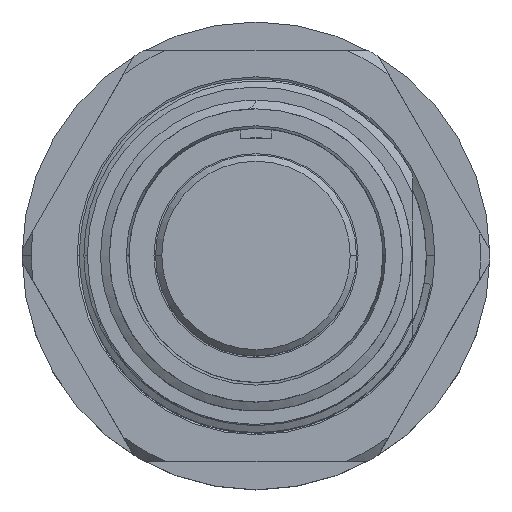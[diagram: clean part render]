
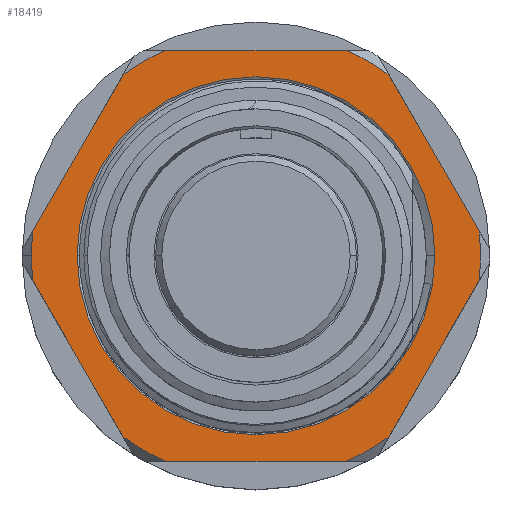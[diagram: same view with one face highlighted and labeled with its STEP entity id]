
A CAD part, top view. The second image highlights one B-rep face of the part: STEP entity #18419.
In plain terms, the highlighted planar face has unit normal (0, 0, 1).
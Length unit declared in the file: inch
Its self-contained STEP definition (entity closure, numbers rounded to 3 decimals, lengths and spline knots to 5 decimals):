
#40 = CARTESIAN_POINT ( 'NONE',  ( 0., 0., -0.59 ) ) ;
#198 = VECTOR ( 'NONE', #565, 39.37008 ) ;
#236 = CARTESIAN_POINT ( 'NONE',  ( -0.32043, 0.755, -0.59 ) ) ;
#300 = EDGE_CURVE ( 'NONE', #17003, #16417, #13078, .T. ) ;
#346 = VERTEX_POINT ( 'NONE', #20604 ) ;
#439 = ORIENTED_EDGE ( 'NONE', *, *, #11275, .T. ) ;
#451 = ORIENTED_EDGE ( 'NONE', *, *, #15146, .F. ) ;
#485 = VERTEX_POINT ( 'NONE', #16913 ) ;
#565 = DIRECTION ( 'NONE',  ( 1., 0., 0. ) ) ;
#849 = LINE ( 'NONE', #15213, #17257 ) ;
#852 = ORIENTED_EDGE ( 'NONE', *, *, #12376, .T. ) ;
#1021 = DIRECTION ( 'NONE',  ( 0., 0., 1. ) ) ;
#1150 = DIRECTION ( 'NONE',  ( -0.5, -0.866, 0. ) ) ;
#1242 = VERTEX_POINT ( 'NONE', #11597 ) ;
#1440 = DIRECTION ( 'NONE',  ( 0., 0., 1. ) ) ;
#1490 = EDGE_LOOP ( 'NONE', ( #14899, #439, #7369, #15559, #13210, #4406, #14832, #17881, #852, #20594, #5254, #7437, #8036 ) ) ;
#1937 = CARTESIAN_POINT ( 'NONE',  ( 0.32043, 0.755, -0.59 ) ) ;
#2206 = DIRECTION ( 'NONE',  ( 1., 0., 0. ) ) ;
#2260 = DIRECTION ( 'NONE',  ( 1., 0., 0. ) ) ;
#2390 = CARTESIAN_POINT ( 'NONE',  ( 0.28671, 0.655, -0.59 ) ) ;
#2472 = CARTESIAN_POINT ( 'NONE',  ( -0.715, 0., -0.59 ) ) ;
#2854 = CIRCLE ( 'NONE', #11173, 0.715 ) ;
#3367 = EDGE_CURVE ( 'NONE', #5416, #6409, #4305, .T. ) ;
#3648 = CARTESIAN_POINT ( 'NONE',  ( -0.42389, -0.57579, -0.59 ) ) ;
#4188 = AXIS2_PLACEMENT_3D ( 'NONE', #11793, #15014, #2206 ) ;
#4305 = LINE ( 'NONE', #5034, #12440 ) ;
#4406 = ORIENTED_EDGE ( 'NONE', *, *, #300, .T. ) ;
#4784 = CARTESIAN_POINT ( 'NONE',  ( 0., 0., -0.59 ) ) ;
#4814 = DIRECTION ( 'NONE',  ( 0., 0., 1. ) ) ;
#5034 = CARTESIAN_POINT ( 'NONE',  ( -0.81406, 0.1, -0.59 ) ) ;
#5254 = ORIENTED_EDGE ( 'NONE', *, *, #7687, .T. ) ;
#5272 = LINE ( 'NONE', #1937, #7244 ) ;
#5416 = VERTEX_POINT ( 'NONE', #3648 ) ;
#5488 = CARTESIAN_POINT ( 'NONE',  ( 0., 0., -0.59 ) ) ;
#5517 = VERTEX_POINT ( 'NONE', #10209 ) ;
#5725 = DIRECTION ( 'NONE',  ( 1., 0., 0. ) ) ;
#5737 = DIRECTION ( 'NONE',  ( 1., 0., 0. ) ) ;
#5874 = PLANE ( 'NONE',  #17040 ) ;
#5962 = CARTESIAN_POINT ( 'NONE',  ( 0.42389, 0.57579, -0.59 ) ) ;
#6003 = EDGE_CURVE ( 'NONE', #485, #5517, #18851, .T. ) ;
#6409 = VERTEX_POINT ( 'NONE', #16382 ) ;
#6589 = VERTEX_POINT ( 'NONE', #2390 ) ;
#6788 = CARTESIAN_POINT ( 'NONE',  ( 0.7106, 0.07921, -0.59 ) ) ;
#6930 = CIRCLE ( 'NONE', #17612, 0.715 ) ;
#6931 = EDGE_CURVE ( 'NONE', #17003, #6589, #16719, .T. ) ;
#6983 = AXIS2_PLACEMENT_3D ( 'NONE', #9304, #15676, #5725 ) ;
#7011 = VERTEX_POINT ( 'NONE', #7314 ) ;
#7126 = EDGE_CURVE ( 'NONE', #7011, #16075, #2854, .T. ) ;
#7183 = CIRCLE ( 'NONE', #4188, 0.715 ) ;
#7244 = VECTOR ( 'NONE', #13090, 39.37008 ) ;
#7260 = AXIS2_PLACEMENT_3D ( 'NONE', #4784, #1440, #11020 ) ;
#7314 = CARTESIAN_POINT ( 'NONE',  ( -0.7106, 0.07921, -0.59 ) ) ;
#7369 = ORIENTED_EDGE ( 'NONE', *, *, #11783, .F. ) ;
#7398 = CARTESIAN_POINT ( 'NONE',  ( 0., 0., -0.59 ) ) ;
#7437 = ORIENTED_EDGE ( 'NONE', *, *, #19694, .F. ) ;
#7687 = EDGE_CURVE ( 'NONE', #5416, #346, #7183, .T. ) ;
#7854 = DIRECTION ( 'NONE',  ( 0.5, 0.866, 0. ) ) ;
#8036 = ORIENTED_EDGE ( 'NONE', *, *, #10347, .T. ) ;
#8080 = VERTEX_POINT ( 'NONE', #5962 ) ;
#8266 = CIRCLE ( 'NONE', #7260, 0.715 ) ;
#8567 = EDGE_CURVE ( 'NONE', #7011, #16417, #14506, .T. ) ;
#8916 = AXIS2_PLACEMENT_3D ( 'NONE', #15578, #9208, #17148 ) ;
#9157 = EDGE_CURVE ( 'NONE', #9730, #1242, #849, .T. ) ;
#9182 = EDGE_CURVE ( 'NONE', #8080, #6589, #6930, .T. ) ;
#9208 = DIRECTION ( 'NONE',  ( 0., 0., 1. ) ) ;
#9304 = CARTESIAN_POINT ( 'NONE',  ( 0., 0., -0.59 ) ) ;
#9421 = FACE_OUTER_BOUND ( 'NONE', #1490, .T. ) ;
#9730 = VERTEX_POINT ( 'NONE', #14211 ) ;
#9883 = LINE ( 'NONE', #12913, #15051 ) ;
#10209 = CARTESIAN_POINT ( 'NONE',  ( 0.57, 0., -0.59 ) ) ;
#10281 = CIRCLE ( 'NONE', #15612, 0.715 ) ;
#10347 = EDGE_CURVE ( 'NONE', #15216, #1242, #8266, .T. ) ;
#10446 = DIRECTION ( 'NONE',  ( 0., 0., 1. ) ) ;
#11020 = DIRECTION ( 'NONE',  ( 1., 0., 0. ) ) ;
#11173 = AXIS2_PLACEMENT_3D ( 'NONE', #20057, #10446, #13669 ) ;
#11275 = EDGE_CURVE ( 'NONE', #9730, #12351, #10281, .T. ) ;
#11597 = CARTESIAN_POINT ( 'NONE',  ( 0.42389, -0.57579, -0.59 ) ) ;
#11783 = EDGE_CURVE ( 'NONE', #8080, #12351, #5272, .T. ) ;
#11793 = CARTESIAN_POINT ( 'NONE',  ( 0., 0., -0.59 ) ) ;
#12323 = CIRCLE ( 'NONE', #6983, 0.57 ) ;
#12351 = VERTEX_POINT ( 'NONE', #6788 ) ;
#12353 = FACE_BOUND ( 'NONE', #18955, .T. ) ;
#12376 = EDGE_CURVE ( 'NONE', #16075, #6409, #18605, .T. ) ;
#12440 = VECTOR ( 'NONE', #18489, 39.37008 ) ;
#12913 = CARTESIAN_POINT ( 'NONE',  ( 0., -0.655, -0.59 ) ) ;
#13078 = CIRCLE ( 'NONE', #16715, 0.715 ) ;
#13090 = DIRECTION ( 'NONE',  ( 0.5, -0.866, 0. ) ) ;
#13210 = ORIENTED_EDGE ( 'NONE', *, *, #6931, .F. ) ;
#13669 = DIRECTION ( 'NONE',  ( 1., 0., 0. ) ) ;
#13836 = CARTESIAN_POINT ( 'NONE',  ( 0., 0., -0.59 ) ) ;
#14092 = DIRECTION ( 'NONE',  ( 1., 0., 0. ) ) ;
#14211 = CARTESIAN_POINT ( 'NONE',  ( 0.7106, -0.07921, -0.59 ) ) ;
#14506 = LINE ( 'NONE', #236, #19876 ) ;
#14832 = ORIENTED_EDGE ( 'NONE', *, *, #8567, .F. ) ;
#14899 = ORIENTED_EDGE ( 'NONE', *, *, #9157, .F. ) ;
#15014 = DIRECTION ( 'NONE',  ( 0., 0., 1. ) ) ;
#15051 = VECTOR ( 'NONE', #19300, 39.37008 ) ;
#15146 = EDGE_CURVE ( 'NONE', #5517, #485, #12323, .T. ) ;
#15213 = CARTESIAN_POINT ( 'NONE',  ( 0.81406, 0.1, -0.59 ) ) ;
#15216 = VERTEX_POINT ( 'NONE', #19936 ) ;
#15509 = CARTESIAN_POINT ( 'NONE',  ( -0.28671, 0.655, -0.59 ) ) ;
#15559 = ORIENTED_EDGE ( 'NONE', *, *, #9182, .T. ) ;
#15578 = CARTESIAN_POINT ( 'NONE',  ( 0., 0., -0.59 ) ) ;
#15612 = AXIS2_PLACEMENT_3D ( 'NONE', #5488, #4814, #2260 ) ;
#15676 = DIRECTION ( 'NONE',  ( 0., 0., 1. ) ) ;
#15895 = DIRECTION ( 'NONE',  ( 0., 0., 1. ) ) ;
#16075 = VERTEX_POINT ( 'NONE', #2472 ) ;
#16382 = CARTESIAN_POINT ( 'NONE',  ( -0.7106, -0.07921, -0.59 ) ) ;
#16417 = VERTEX_POINT ( 'NONE', #19855 ) ;
#16715 = AXIS2_PLACEMENT_3D ( 'NONE', #40, #15895, #14092 ) ;
#16719 = LINE ( 'NONE', #17984, #198 ) ;
#16913 = CARTESIAN_POINT ( 'NONE',  ( -0.57, 0., -0.59 ) ) ;
#17003 = VERTEX_POINT ( 'NONE', #15509 ) ;
#17040 = AXIS2_PLACEMENT_3D ( 'NONE', #18527, #17047, #20509 ) ;
#17047 = DIRECTION ( 'NONE',  ( 0., 0., -1. ) ) ;
#17148 = DIRECTION ( 'NONE',  ( 1., 0., 0. ) ) ;
#17257 = VECTOR ( 'NONE', #1150, 39.37008 ) ;
#17612 = AXIS2_PLACEMENT_3D ( 'NONE', #7398, #18388, #5737 ) ;
#17881 = ORIENTED_EDGE ( 'NONE', *, *, #7126, .T. ) ;
#17984 = CARTESIAN_POINT ( 'NONE',  ( 0., 0.655, -0.59 ) ) ;
#18289 = ORIENTED_EDGE ( 'NONE', *, *, #6003, .F. ) ;
#18388 = DIRECTION ( 'NONE',  ( 0., 0., 1. ) ) ;
#18419 = ADVANCED_FACE ( 'NONE', ( #12353, #9421 ), #5874, .F. ) ;
#18489 = DIRECTION ( 'NONE',  ( -0.5, 0.866, 0. ) ) ;
#18527 = CARTESIAN_POINT ( 'NONE',  ( 0., 0.57, -0.59 ) ) ;
#18605 = CIRCLE ( 'NONE', #8916, 0.715 ) ;
#18672 = DIRECTION ( 'NONE',  ( 1., 0., 0. ) ) ;
#18851 = CIRCLE ( 'NONE', #20516, 0.57 ) ;
#18955 = EDGE_LOOP ( 'NONE', ( #451, #18289 ) ) ;
#19300 = DIRECTION ( 'NONE',  ( -1., 0., 0. ) ) ;
#19694 = EDGE_CURVE ( 'NONE', #15216, #346, #9883, .T. ) ;
#19855 = CARTESIAN_POINT ( 'NONE',  ( -0.42389, 0.57579, -0.59 ) ) ;
#19876 = VECTOR ( 'NONE', #7854, 39.37008 ) ;
#19936 = CARTESIAN_POINT ( 'NONE',  ( 0.28671, -0.655, -0.59 ) ) ;
#20057 = CARTESIAN_POINT ( 'NONE',  ( 0., 0., -0.59 ) ) ;
#20509 = DIRECTION ( 'NONE',  ( -1., 0., 0. ) ) ;
#20516 = AXIS2_PLACEMENT_3D ( 'NONE', #13836, #1021, #18672 ) ;
#20594 = ORIENTED_EDGE ( 'NONE', *, *, #3367, .F. ) ;
#20604 = CARTESIAN_POINT ( 'NONE',  ( -0.28671, -0.655, -0.59 ) ) ;
